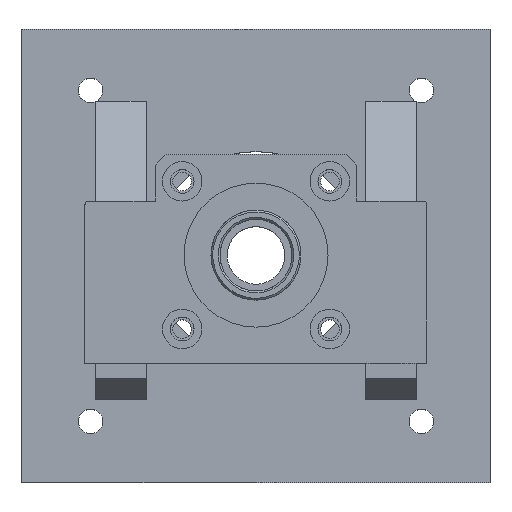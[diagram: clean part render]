
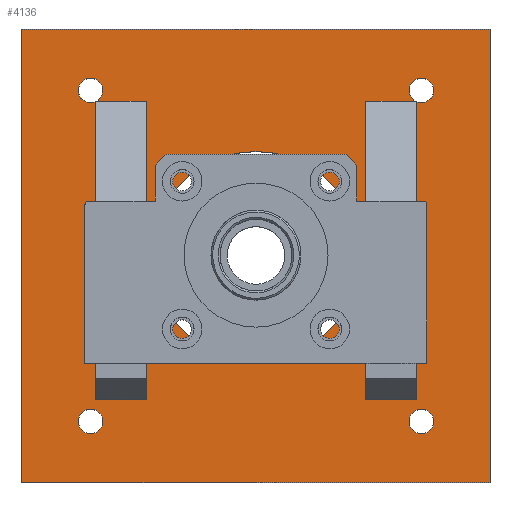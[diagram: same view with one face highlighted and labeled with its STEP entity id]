
A CAD part, top view. The second image highlights one B-rep face of the part: STEP entity #4136.
In plain terms, the highlighted planar face has unit normal (0, 0, 1).
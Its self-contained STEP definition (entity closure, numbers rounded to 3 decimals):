
#2151=DIRECTION('',(-1.,0.,0.));
#2152=VECTOR('',#2151,130.);
#2153=CARTESIAN_POINT('',(65.,-63.,119.));
#2154=LINE('',#2153,#2152);
#2155=DIRECTION('',(0.,1.,0.));
#2156=VECTOR('',#2155,126.);
#2157=CARTESIAN_POINT('',(-65.,-63.,119.));
#2158=LINE('',#2157,#2156);
#2159=DIRECTION('',(1.,0.,0.));
#2160=VECTOR('',#2159,130.);
#2161=CARTESIAN_POINT('',(-65.,63.,119.));
#2162=LINE('',#2161,#2160);
#2163=DIRECTION('',(0.,-1.,0.));
#2164=VECTOR('',#2163,126.);
#2165=CARTESIAN_POINT('',(65.,63.,119.));
#2166=LINE('',#2165,#2164);
#2167=CARTESIAN_POINT('',(45.962,-45.962,119.));
#2168=DIRECTION('',(0.,0.,1.));
#2169=DIRECTION('',(-1.,0.,0.));
#2170=AXIS2_PLACEMENT_3D('',#2167,#2168,#2169);
#2172=CARTESIAN_POINT('',(45.962,-45.962,119.));
#2173=DIRECTION('',(0.,0.,1.));
#2174=DIRECTION('',(1.,0.,0.));
#2175=AXIS2_PLACEMENT_3D('',#2172,#2173,#2174);
#2177=CARTESIAN_POINT('',(-45.962,45.962,119.));
#2178=DIRECTION('',(0.,0.,1.));
#2179=DIRECTION('',(0.491,-0.871,0.));
#2180=AXIS2_PLACEMENT_3D('',#2177,#2178,#2179);
#2182=CARTESIAN_POINT('',(-45.962,45.962,119.));
#2183=DIRECTION('',(0.,0.,1.));
#2184=DIRECTION('',(1.,0.,0.));
#2185=AXIS2_PLACEMENT_3D('',#2182,#2183,#2184);
#2187=CARTESIAN_POINT('',(-45.962,45.962,119.));
#2188=DIRECTION('',(0.,0.,1.));
#2189=DIRECTION('',(-1.,0.,0.));
#2190=AXIS2_PLACEMENT_3D('',#2187,#2188,#2189);
#2192=DIRECTION('',(0.,-1.,0.));
#2193=VECTOR('',#2192,82.892);
#2194=CARTESIAN_POINT('',(-44.5,42.892,119.));
#2195=LINE('',#2194,#2193);
#2196=DIRECTION('',(0.,1.,0.));
#2197=VECTOR('',#2196,83.);
#2198=CARTESIAN_POINT('',(-30.5,-40.,119.));
#2199=LINE('',#2198,#2197);
#2200=CARTESIAN_POINT('',(-45.962,-45.962,119.));
#2201=DIRECTION('',(0.,0.,1.));
#2202=DIRECTION('',(-1.,0.,0.));
#2203=AXIS2_PLACEMENT_3D('',#2200,#2201,#2202);
#2205=CARTESIAN_POINT('',(-45.962,-45.962,119.));
#2206=DIRECTION('',(0.,0.,1.));
#2207=DIRECTION('',(1.,0.,0.));
#2208=AXIS2_PLACEMENT_3D('',#2205,#2206,#2207);
#2210=CARTESIAN_POINT('',(0.,0.,119.));
#2211=DIRECTION('',(0.,0.,1.));
#2212=DIRECTION('',(-1.,0.,0.));
#2213=AXIS2_PLACEMENT_3D('',#2210,#2211,#2212);
#2215=CARTESIAN_POINT('',(0.,0.,119.));
#2216=DIRECTION('',(0.,0.,1.));
#2217=DIRECTION('',(1.,0.,0.));
#2218=AXIS2_PLACEMENT_3D('',#2215,#2216,#2217);
#2220=CARTESIAN_POINT('',(45.962,45.962,119.));
#2221=DIRECTION('',(0.,0.,1.));
#2222=DIRECTION('',(-0.43,-0.903,0.));
#2223=AXIS2_PLACEMENT_3D('',#2220,#2221,#2222);
#2225=CARTESIAN_POINT('',(45.962,45.962,119.));
#2226=DIRECTION('',(0.,0.,1.));
#2227=DIRECTION('',(1.,0.,0.));
#2228=AXIS2_PLACEMENT_3D('',#2225,#2226,#2227);
#2230=CARTESIAN_POINT('',(45.962,45.962,119.));
#2231=DIRECTION('',(0.,0.,1.));
#2232=DIRECTION('',(-1.,0.,0.));
#2233=AXIS2_PLACEMENT_3D('',#2230,#2231,#2232);
#2235=DIRECTION('',(-1.,0.,0.));
#2236=VECTOR('',#2235,13.793);
#2237=CARTESIAN_POINT('',(44.293,43.,119.));
#2238=LINE('',#2237,#2236);
#2239=DIRECTION('',(0.,-1.,0.));
#2240=VECTOR('',#2239,83.);
#2241=CARTESIAN_POINT('',(30.5,43.,119.));
#2242=LINE('',#2241,#2240);
#2243=DIRECTION('',(1.,0.,0.));
#2244=VECTOR('',#2243,14.);
#2245=CARTESIAN_POINT('',(30.5,-40.,119.));
#2246=LINE('',#2245,#2244);
#2247=DIRECTION('',(0.,1.,0.));
#2248=VECTOR('',#2247,82.892);
#2249=CARTESIAN_POINT('',(44.5,-40.,119.));
#2250=LINE('',#2249,#2248);
#2358=DIRECTION('',(1.,0.,0.));
#2359=VECTOR('',#2358,13.793);
#2360=CARTESIAN_POINT('',(-44.293,43.,119.));
#2361=LINE('',#2360,#2359);
#2386=DIRECTION('',(-1.,0.,0.));
#2387=VECTOR('',#2386,14.);
#2388=CARTESIAN_POINT('',(-30.5,-40.,119.));
#2389=LINE('',#2388,#2387);
#3392=CARTESIAN_POINT('',(30.5,-40.,119.));
#3393=VERTEX_POINT('',#3392);
#3394=CARTESIAN_POINT('',(30.5,43.,119.));
#3395=VERTEX_POINT('',#3394);
#3510=CARTESIAN_POINT('',(44.293,43.,119.));
#3511=VERTEX_POINT('',#3510);
#3512=CARTESIAN_POINT('',(44.5,-40.,119.));
#3513=CARTESIAN_POINT('',(44.5,42.892,119.));
#3514=VERTEX_POINT('',#3512);
#3515=VERTEX_POINT('',#3513);
#3516=CARTESIAN_POINT('',(65.,-63.,119.));
#3517=CARTESIAN_POINT('',(-65.,-63.,119.));
#3518=VERTEX_POINT('',#3516);
#3519=VERTEX_POINT('',#3517);
#3520=CARTESIAN_POINT('',(-65.,63.,119.));
#3521=VERTEX_POINT('',#3520);
#3522=CARTESIAN_POINT('',(65.,63.,119.));
#3523=VERTEX_POINT('',#3522);
#3524=CARTESIAN_POINT('',(42.562,-45.962,119.));
#3525=CARTESIAN_POINT('',(49.362,-45.962,119.));
#3526=VERTEX_POINT('',#3524);
#3527=VERTEX_POINT('',#3525);
#3528=CARTESIAN_POINT('',(-44.293,43.,119.));
#3529=CARTESIAN_POINT('',(-42.562,45.962,119.));
#3530=VERTEX_POINT('',#3528);
#3531=VERTEX_POINT('',#3529);
#3532=CARTESIAN_POINT('',(-49.362,45.962,119.));
#3533=VERTEX_POINT('',#3532);
#3534=CARTESIAN_POINT('',(-44.5,42.892,119.));
#3535=VERTEX_POINT('',#3534);
#3536=CARTESIAN_POINT('',(-44.5,-40.,119.));
#3537=VERTEX_POINT('',#3536);
#3538=CARTESIAN_POINT('',(-30.5,-40.,119.));
#3539=VERTEX_POINT('',#3538);
#3540=CARTESIAN_POINT('',(-30.5,43.,119.));
#3541=VERTEX_POINT('',#3540);
#3542=CARTESIAN_POINT('',(-49.362,-45.962,119.));
#3543=CARTESIAN_POINT('',(-42.562,-45.962,119.));
#3544=VERTEX_POINT('',#3542);
#3545=VERTEX_POINT('',#3543);
#3546=CARTESIAN_POINT('',(-29.,0.,119.));
#3547=CARTESIAN_POINT('',(29.,0.,119.));
#3548=VERTEX_POINT('',#3546);
#3549=VERTEX_POINT('',#3547);
#3550=CARTESIAN_POINT('',(49.362,45.962,119.));
#3551=VERTEX_POINT('',#3550);
#3552=CARTESIAN_POINT('',(42.562,45.962,119.));
#3553=VERTEX_POINT('',#3552);
#4074=CARTESIAN_POINT('',(0.,0.,119.));
#4075=DIRECTION('',(0.,0.,1.));
#4076=DIRECTION('',(1.,0.,0.));
#4077=AXIS2_PLACEMENT_3D('',#4074,#4075,#4076);
#4078=PLANE('',#4077);
#4080=ORIENTED_EDGE('',*,*,#4079,.T.);
#4082=ORIENTED_EDGE('',*,*,#4081,.T.);
#4084=ORIENTED_EDGE('',*,*,#4083,.T.);
#4086=ORIENTED_EDGE('',*,*,#4085,.T.);
#4087=EDGE_LOOP('',(#4080,#4082,#4084,#4086));
#4088=FACE_OUTER_BOUND('',#4087,.F.);
#4090=ORIENTED_EDGE('',*,*,#4089,.T.);
#4092=ORIENTED_EDGE('',*,*,#4091,.T.);
#4093=EDGE_LOOP('',(#4090,#4092));
#4094=FACE_BOUND('',#4093,.F.);
#4096=ORIENTED_EDGE('',*,*,#4095,.T.);
#4098=ORIENTED_EDGE('',*,*,#4097,.T.);
#4100=ORIENTED_EDGE('',*,*,#4099,.T.);
#4102=ORIENTED_EDGE('',*,*,#4101,.T.);
#4104=ORIENTED_EDGE('',*,*,#4103,.F.);
#4106=ORIENTED_EDGE('',*,*,#4105,.T.);
#4108=ORIENTED_EDGE('',*,*,#4107,.F.);
#4109=EDGE_LOOP('',(#4096,#4098,#4100,#4102,#4104,#4106,#4108));
#4110=FACE_BOUND('',#4109,.F.);
#4112=ORIENTED_EDGE('',*,*,#4111,.T.);
#4114=ORIENTED_EDGE('',*,*,#4113,.T.);
#4115=EDGE_LOOP('',(#4112,#4114));
#4116=FACE_BOUND('',#4115,.F.);
#4118=ORIENTED_EDGE('',*,*,#4117,.T.);
#4120=ORIENTED_EDGE('',*,*,#4119,.T.);
#4121=EDGE_LOOP('',(#4118,#4120));
#4122=FACE_BOUND('',#4121,.F.);
#4124=ORIENTED_EDGE('',*,*,#4123,.T.);
#4126=ORIENTED_EDGE('',*,*,#4125,.T.);
#4128=ORIENTED_EDGE('',*,*,#4127,.T.);
#4129=ORIENTED_EDGE('',*,*,#4047,.T.);
#4130=ORIENTED_EDGE('',*,*,#3854,.T.);
#4132=ORIENTED_EDGE('',*,*,#4131,.T.);
#4133=ORIENTED_EDGE('',*,*,#4059,.T.);
#4134=EDGE_LOOP('',(#4124,#4126,#4128,#4129,#4130,#4132,#4133));
#4135=FACE_BOUND('',#4134,.F.);
#2171=CIRCLE('',#2170,3.4);
#2176=CIRCLE('',#2175,3.4);
#2181=CIRCLE('',#2180,3.4);
#2186=CIRCLE('',#2185,3.4);
#2191=CIRCLE('',#2190,3.4);
#2204=CIRCLE('',#2203,3.4);
#2209=CIRCLE('',#2208,3.4);
#2214=CIRCLE('',#2213,29.);
#2219=CIRCLE('',#2218,29.);
#2224=CIRCLE('',#2223,3.4);
#2229=CIRCLE('',#2228,3.4);
#2234=CIRCLE('',#2233,3.4);
#3854=EDGE_CURVE('',#3395,#3393,#2242,.T.);
#4047=EDGE_CURVE('',#3511,#3395,#2238,.T.);
#4059=EDGE_CURVE('',#3514,#3515,#2250,.T.);
#4079=EDGE_CURVE('',#3518,#3519,#2154,.T.);
#4081=EDGE_CURVE('',#3519,#3521,#2158,.T.);
#4083=EDGE_CURVE('',#3521,#3523,#2162,.T.);
#4085=EDGE_CURVE('',#3523,#3518,#2166,.T.);
#4089=EDGE_CURVE('',#3526,#3527,#2171,.T.);
#4091=EDGE_CURVE('',#3527,#3526,#2176,.T.);
#4095=EDGE_CURVE('',#3530,#3531,#2181,.T.);
#4097=EDGE_CURVE('',#3531,#3533,#2186,.T.);
#4099=EDGE_CURVE('',#3533,#3535,#2191,.T.);
#4101=EDGE_CURVE('',#3535,#3537,#2195,.T.);
#4103=EDGE_CURVE('',#3539,#3537,#2389,.T.);
#4105=EDGE_CURVE('',#3539,#3541,#2199,.T.);
#4107=EDGE_CURVE('',#3530,#3541,#2361,.T.);
#4111=EDGE_CURVE('',#3544,#3545,#2204,.T.);
#4113=EDGE_CURVE('',#3545,#3544,#2209,.T.);
#4117=EDGE_CURVE('',#3548,#3549,#2214,.T.);
#4119=EDGE_CURVE('',#3549,#3548,#2219,.T.);
#4123=EDGE_CURVE('',#3515,#3551,#2224,.T.);
#4125=EDGE_CURVE('',#3551,#3553,#2229,.T.);
#4127=EDGE_CURVE('',#3553,#3511,#2234,.T.);
#4131=EDGE_CURVE('',#3393,#3514,#2246,.T.);
#4136=ADVANCED_FACE('',(#4088,#4094,#4110,#4116,#4122,#4135),#4078,.T.);
